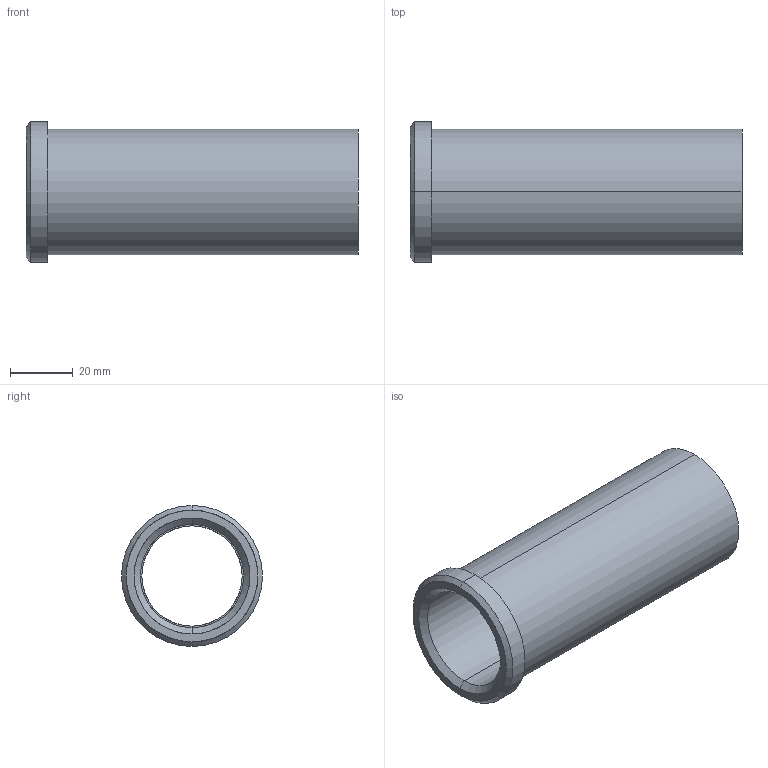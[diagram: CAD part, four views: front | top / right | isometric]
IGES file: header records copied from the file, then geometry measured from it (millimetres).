
Start section: START RECORD GO HERE.
Global section: file name: 353-32X106.igs; native system: DASSAULT SYSTEMES CATIA V5 R20 - www.3ds.com; preprocessor: CATIA Version 5 Release 20 ; author: Utente; organization: NB04-ASUS; date: 20210512.205210; units: millimetre
Bounding box: 106 x 45 x 45 mm (x, y, z)
Surface area: 25463 mm2 (no closed solid volume)
Topology: 0 solids, 0 shells, 18 faces, 116 edges, 116 vertices
Faces by surface type: revolution 14, plane 4
